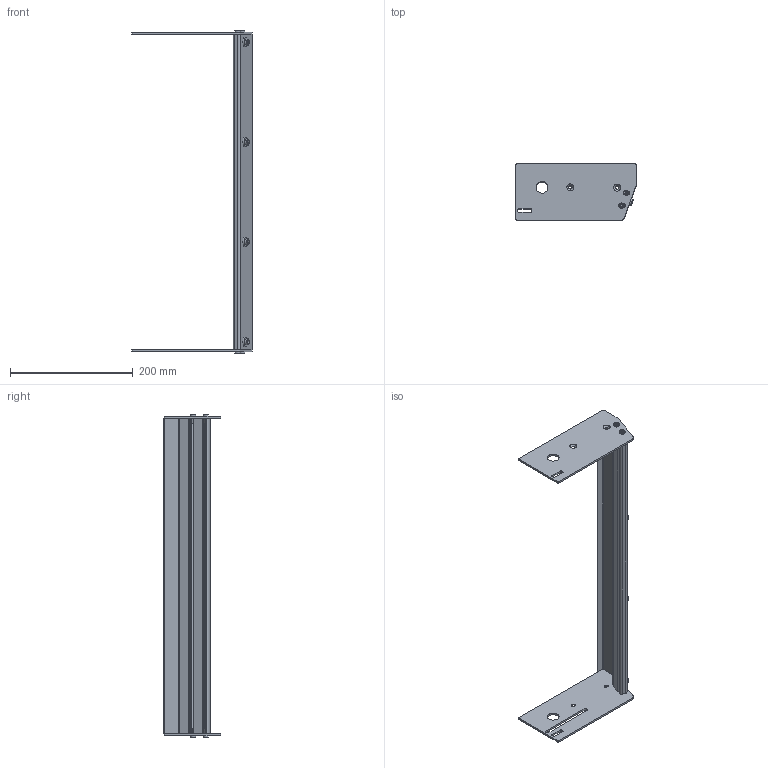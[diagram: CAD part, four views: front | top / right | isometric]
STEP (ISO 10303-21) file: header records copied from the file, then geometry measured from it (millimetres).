
FILE_DESCRIPTION((''),'2;1');
FILE_NAME('351199-20_ASM','2023-03-15T',('jenni.wallner'),(''),'PRO/ENGINEER BY PARAMETRIC TECHNOLOGY CORPORATION, 2012420','PRO/ENGINEER BY PARAMETRIC TECHNOLOGY CORPORATION, 2012420','');
FILE_SCHEMA(('CONFIG_CONTROL_DESIGN'));
Length unit declared in the file: inch
Products named in the file (10): 351200_DEFAULT_AS_MACHINED_; 351201; 605279P; 990603M; 9506XXM_950612M; 9505XXM_950512M; 351202-WW_351202-20; 351203-WW_351203-20; ASM0001_ASM; 351199-20_ASM
Assembly tree (21 placements, depth 3):
  351199-20_ASM
    ASM0001_ASM
      351200_DEFAULT_AS_MACHINED_
      351201
      605279P  x4
      990603M  x4
      9506XXM_950612M  x4
      9505XXM_950512M  x4
      351202-WW_351202-20
      351203-WW_351203-20
Bounding box: 196.11 x 93.08 x 527.09 mm (x, y, z)
Volume: 309497 mm3; surface area: 248831.2 mm2
Topology: 20 solids, 20 shells, 419 faces, 995 edges, 632 vertices
Faces by surface type: plane 190, cylinder 145, cone 84
Entity records: 7934 total; most frequent: CARTESIAN_POINT 1440, DIRECTION 1430, ORIENTED_EDGE 1240, EDGE_CURVE 620, AXIS2_PLACEMENT_3D 539, VERTEX_POINT 404, VECTOR 352, LINE 352
